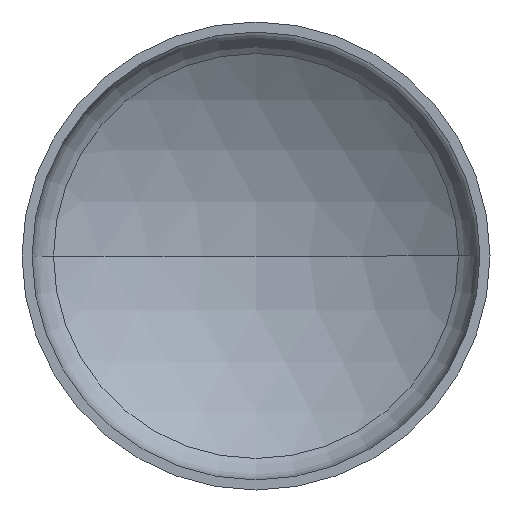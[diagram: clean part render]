
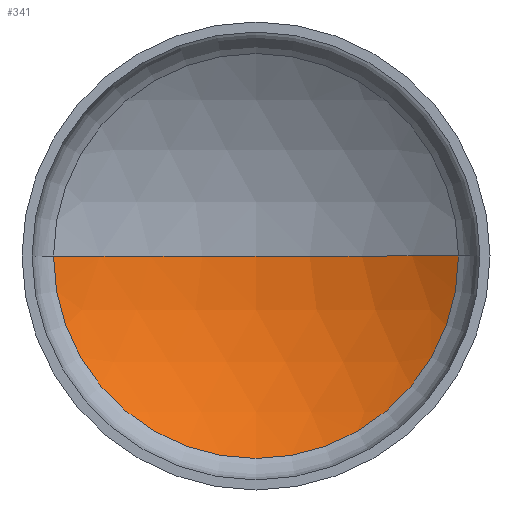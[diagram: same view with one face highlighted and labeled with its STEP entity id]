
A CAD part, front view. The second image highlights one B-rep face of the part: STEP entity #341.
In plain terms, the highlighted spherical face has radius 105.76 mm.
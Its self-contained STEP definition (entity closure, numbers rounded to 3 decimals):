
#2 = AXIS2_PLACEMENT_3D ( 'NONE', #102, #199, #191 ) ;
#16 = CARTESIAN_POINT ( 'NONE',  ( 0., 32.5, 0. ) ) ;
#102 = CARTESIAN_POINT ( 'NONE',  ( 0., -73.26, 0. ) ) ;
#122 = SPHERICAL_SURFACE ( 'NONE', #169, 105.76 ) ;
#129 = VERTEX_POINT ( 'NONE', #16 ) ;
#151 = FACE_OUTER_BOUND ( 'NONE', #281, .T. ) ;
#156 = ORIENTED_EDGE ( 'NONE', *, *, #305, .F. ) ;
#169 = AXIS2_PLACEMENT_3D ( 'NONE', #241, #374, #321 ) ;
#180 = ORIENTED_EDGE ( 'NONE', *, *, #384, .T. ) ;
#187 = DIRECTION ( 'NONE',  ( -1., 0., 0. ) ) ;
#191 = DIRECTION ( 'NONE',  ( 1., 0., 0. ) ) ;
#199 = DIRECTION ( 'NONE',  ( 0., 0., 1. ) ) ;
#201 = CIRCLE ( 'NONE', #344, 105.76 ) ;
#211 = DIRECTION ( 'NONE',  ( -1., 0., 0. ) ) ;
#238 = CARTESIAN_POINT ( 'NONE',  ( -60.442, 13.527, 0. ) ) ;
#241 = CARTESIAN_POINT ( 'NONE',  ( 0., -73.26, 0. ) ) ;
#270 = DIRECTION ( 'NONE',  ( 0., 1., 0. ) ) ;
#280 = DIRECTION ( 'NONE',  ( 0., 0., -1. ) ) ;
#281 = EDGE_LOOP ( 'NONE', ( #156, #180, #339 ) ) ;
#294 = AXIS2_PLACEMENT_3D ( 'NONE', #379, #270, #211 ) ;
#305 = EDGE_CURVE ( 'NONE', #378, #313, #382, .T. ) ;
#313 = VERTEX_POINT ( 'NONE', #238 ) ;
#321 = DIRECTION ( 'NONE',  ( -1., 0., 0. ) ) ;
#335 = EDGE_CURVE ( 'NONE', #313, #129, #201, .T. ) ;
#339 = ORIENTED_EDGE ( 'NONE', *, *, #335, .F. ) ;
#341 = ADVANCED_FACE ( 'NONE', ( #151 ), #122, .F. ) ;
#344 = AXIS2_PLACEMENT_3D ( 'NONE', #366, #280, #187 ) ;
#353 = CARTESIAN_POINT ( 'NONE',  ( 60.442, 13.527, 0. ) ) ;
#360 = CIRCLE ( 'NONE', #2, 105.76 ) ;
#366 = CARTESIAN_POINT ( 'NONE',  ( 0., -73.26, 0. ) ) ;
#374 = DIRECTION ( 'NONE',  ( 0., 0., 1. ) ) ;
#378 = VERTEX_POINT ( 'NONE', #353 ) ;
#379 = CARTESIAN_POINT ( 'NONE',  ( 0., 13.527, 0. ) ) ;
#382 = CIRCLE ( 'NONE', #294, 60.442 ) ;
#384 = EDGE_CURVE ( 'NONE', #378, #129, #360, .T. ) ;
